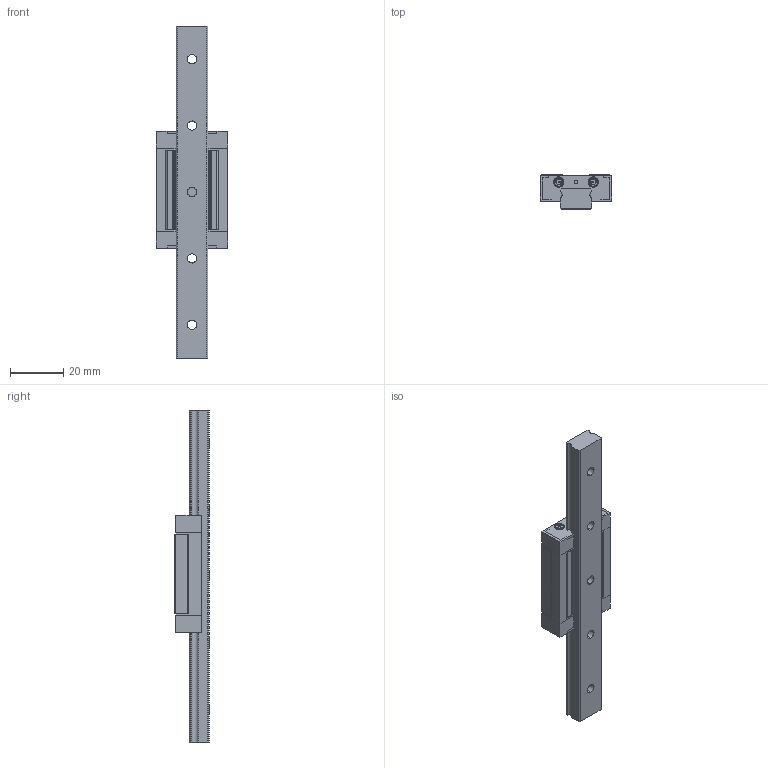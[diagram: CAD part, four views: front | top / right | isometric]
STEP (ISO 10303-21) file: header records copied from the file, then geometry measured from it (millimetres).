
FILE_DESCRIPTION (( 'STEP AP214' ), '1' );
FILE_NAME ('FBXX12NH-SS.STEP', '2022-08-06T17:43:09', ( 'JST' ), ( 'JST' ), 'SwSTEP 2.0', 'SolidWorks 2016', '' );
FILE_SCHEMA (( 'AUTOMOTIVE_DESIGN' ));
Length unit declared in the file: millimetre
Products named in the file (8): 12NH悜遠釱.; 12NH傷裔; M2.0蹟佪; 12NH-SS賑輸; FBXX12NH-SS; 12N絳寢; 12NH賑輸; 12NH-SS滅鳥え
Assembly tree (12 placements, depth 3):
  FBXX12NH-SS
    12N絳寢
    12NH-SS賑輸
      12NH-SS滅鳥え  x2
      12NH傷裔  x2
      12NH賑輸
      12NH悜遠釱.
      M2.0蹟佪  x4
Bounding box: 27 x 13 x 125 mm (x, y, z)
Volume: 18782.6 mm3; surface area: 13831.9 mm2
Topology: 11 solids, 11 shells, 526 faces, 1433 edges, 940 vertices
Faces by surface type: cylinder 259, plane 221, cone 26, bspline 12, torus 8
Entity records: 12045 total; most frequent: CARTESIAN_POINT 4819, ORIENTED_EDGE 1434, DIRECTION 1379, EDGE_CURVE 717, VERTEX_POINT 470, AXIS2_PLACEMENT_3D 461, VECTOR 457, LINE 457
